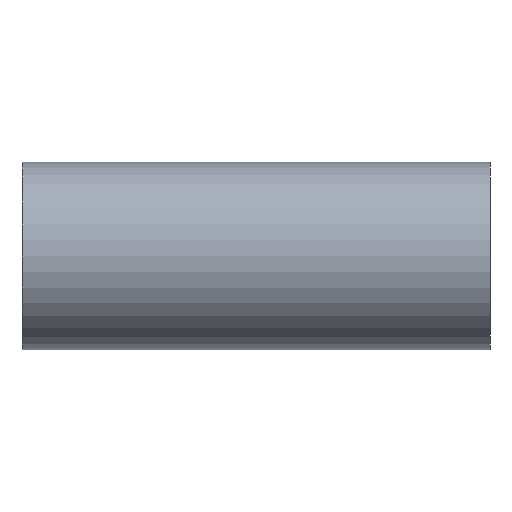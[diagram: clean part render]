
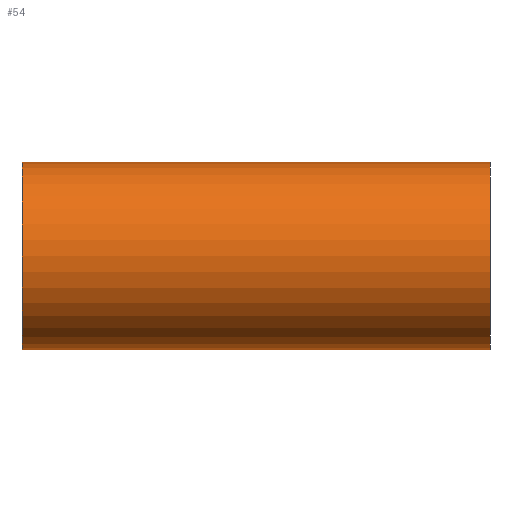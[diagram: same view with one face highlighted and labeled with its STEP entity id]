
A CAD part, front view. The second image highlights one B-rep face of the part: STEP entity #54.
In plain terms, the highlighted cylindrical face has radius 20 mm (diameter 40 mm), a partial arc.
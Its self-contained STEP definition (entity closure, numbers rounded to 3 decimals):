
#1 = FACE_OUTER_BOUND ( 'NONE', #98, .T. ) ;
#2 = CARTESIAN_POINT ( 'NONE',  ( -40.816, 54.898, -20. ) ) ;
#8 = VECTOR ( 'NONE', #204, 1000. ) ;
#9 = VERTEX_POINT ( 'NONE', #2 ) ;
#10 = DIRECTION ( 'NONE',  ( -1., 0., 0. ) ) ;
#27 = CARTESIAN_POINT ( 'NONE',  ( 59.184, 54.898, 20. ) ) ;
#32 = LINE ( 'NONE', #108, #8 ) ;
#36 = EDGE_CURVE ( 'NONE', #124, #94, #71, .T. ) ;
#39 = CARTESIAN_POINT ( 'NONE',  ( -40.816, 54.898, 0. ) ) ;
#40 = CARTESIAN_POINT ( 'NONE',  ( 59.184, 54.898, 0. ) ) ;
#41 = AXIS2_PLACEMENT_3D ( 'NONE', #40, #107, #198 ) ;
#49 = EDGE_CURVE ( 'NONE', #89, #9, #203, .T. ) ;
#52 = LINE ( 'NONE', #58, #179 ) ;
#54 = ADVANCED_FACE ( 'NONE', ( #1 ), #195, .T. ) ;
#58 = CARTESIAN_POINT ( 'NONE',  ( 59.184, 54.898, 20. ) ) ;
#66 = DIRECTION ( 'NONE',  ( 0., 0., -1. ) ) ;
#68 = DIRECTION ( 'NONE',  ( 0., 0., -1. ) ) ;
#71 = CIRCLE ( 'NONE', #73, 20. ) ;
#73 = AXIS2_PLACEMENT_3D ( 'NONE', #169, #149, #68 ) ;
#89 = VERTEX_POINT ( 'NONE', #199 ) ;
#94 = VERTEX_POINT ( 'NONE', #110 ) ;
#98 = EDGE_LOOP ( 'NONE', ( #112, #197, #100, #211 ) ) ;
#100 = ORIENTED_EDGE ( 'NONE', *, *, #121, .T. ) ;
#107 = DIRECTION ( 'NONE',  ( -1., 0., 0. ) ) ;
#108 = CARTESIAN_POINT ( 'NONE',  ( 59.184, 54.898, -20. ) ) ;
#110 = CARTESIAN_POINT ( 'NONE',  ( 59.184, 54.898, -20. ) ) ;
#112 = ORIENTED_EDGE ( 'NONE', *, *, #205, .F. ) ;
#121 = EDGE_CURVE ( 'NONE', #124, #89, #52, .T. ) ;
#122 = DIRECTION ( 'NONE',  ( 1., 0., 0. ) ) ;
#124 = VERTEX_POINT ( 'NONE', #27 ) ;
#149 = DIRECTION ( 'NONE',  ( 1., 0., 0. ) ) ;
#150 = AXIS2_PLACEMENT_3D ( 'NONE', #39, #122, #66 ) ;
#169 = CARTESIAN_POINT ( 'NONE',  ( 59.184, 54.898, 0. ) ) ;
#179 = VECTOR ( 'NONE', #10, 1000. ) ;
#195 = CYLINDRICAL_SURFACE ( 'NONE', #41, 20. ) ;
#197 = ORIENTED_EDGE ( 'NONE', *, *, #36, .F. ) ;
#198 = DIRECTION ( 'NONE',  ( 0., 0., 1. ) ) ;
#199 = CARTESIAN_POINT ( 'NONE',  ( -40.816, 54.898, 20. ) ) ;
#203 = CIRCLE ( 'NONE', #150, 20. ) ;
#204 = DIRECTION ( 'NONE',  ( -1., 0., 0. ) ) ;
#205 = EDGE_CURVE ( 'NONE', #94, #9, #32, .T. ) ;
#211 = ORIENTED_EDGE ( 'NONE', *, *, #49, .T. ) ;
